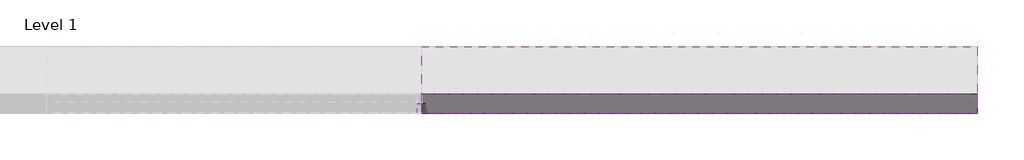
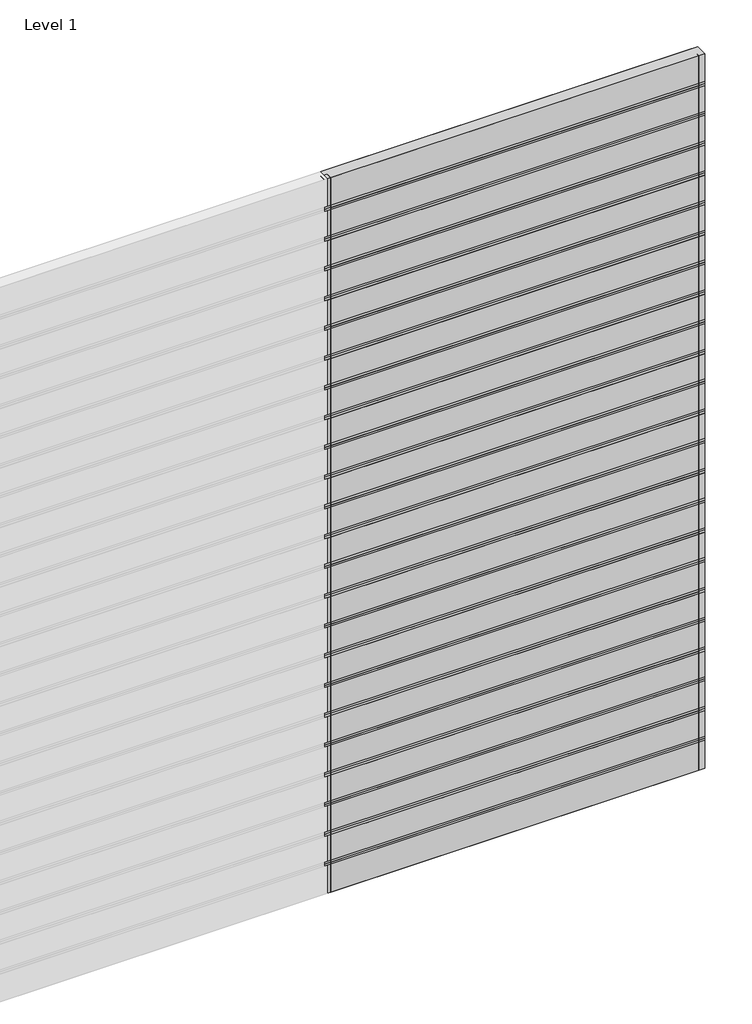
# One storey, part 2 of 2: 59 members, 48 plates.
"""IFC4 building model written with IfcOpenShell, lengths in millimetres."""

import ifcopenshell
import ifcopenshell.guid

model = None  # the IFC model being written
_history = None  # IfcOwnerHistory: only IFC2X3 demands one
_inside = {}  # id of a spatial element -> (the spatial element, [elements in it])
_under = {}  # id of a project, library or spatial element -> (it, [spatial elements below it])
_declared = {}  # id of a project -> (the project, [libraries it declares])
_typed = {}  # id of a type object -> (the type object, [elements of that type])
_made_of = {}  # id of a material, layer set ... -> (it, [elements and type objects made of it])


def new_model(schema):
    """Start an empty IFC model of exactly this schema.

    Asked for "IFC4X3", IfcOpenShell would pick the latest addendum, in which some entities
    have other attributes; the version numbers below select the first issue.
    IFC2X3 requires an IfcOwnerHistory on every rooted entity: one is made here for all.
    """
    global model, _history
    if schema == "IFC4X3":
        model = ifcopenshell.file(schema_version=(4, 3, 0, 0))
    else:
        model = ifcopenshell.file(schema=schema)
    _inside.clear()
    _under.clear()
    _declared.clear()
    _typed.clear()
    _made_of.clear()
    _history = None
    if model.schema == "IFC2X3":
        org = make("IfcOrganization", Name="unknown")
        user = make(
            "IfcPersonAndOrganization",
            ThePerson=make("IfcPerson", FamilyName="unknown"),
            TheOrganization=org,
        )
        app = make(
            "IfcApplication",
            ApplicationDeveloper=org,
            Version="unknown",
            ApplicationFullName="unknown",
            ApplicationIdentifier="unknown",
        )
        _history = make(
            "IfcOwnerHistory",
            OwningUser=user,
            OwningApplication=app,
            ChangeAction="ADDED",
            CreationDate=0,
        )
    return model


def make(cls, **values):
    """One entity of the class cls with the attributes given. An attribute that is None is left unset."""
    return model.create_entity(
        cls, **{name: value for name, value in values.items() if value is not None}
    )


def rooted(cls, **values):
    """An entity with a GlobalId (a new one), such as an element, a storey or a relation."""
    return make(cls, GlobalId=ifcopenshell.guid.new(), OwnerHistory=_history, **values)


def si_unit(unit_type, name, prefix=None):
    """IfcSIUnit, for example si_unit("LENGTHUNIT", "METRE", prefix="MILLI")."""
    return make("IfcSIUnit", UnitType=unit_type, Prefix=prefix, Name=name)


def assignment(units):
    """IfcUnitAssignment: the units of a project."""
    return None if units is None else make("IfcUnitAssignment", Units=units)


def point(xyz):
    """IfcCartesianPoint."""
    return None if xyz is None else make("IfcCartesianPoint", Coordinates=xyz)


def direction(xyz):
    """IfcDirection."""
    return None if xyz is None else make("IfcDirection", DirectionRatios=xyz)


def frame(location, z_axis=None, x_axis=None):
    """IfcAxis2Placement3D, a coordinate frame: its origin and axes. An axis left out is left unset."""
    return make(
        "IfcAxis2Placement3D",
        Location=point(location),
        Axis=direction(z_axis),
        RefDirection=direction(x_axis),
    )


def origin():
    """The frame at (0, 0, 0) with its axes left unset."""
    return frame((0.0, 0.0, 0.0))


def origin_with_axes():
    """The frame at (0, 0, 0) with the z axis (0, 0, 1) and the x axis (1, 0, 0) written out."""
    return frame((0.0, 0.0, 0.0), z_axis=(0.0, 0.0, 1.0), x_axis=(1.0, 0.0, 0.0))


def place(relative_to, where):
    """IfcLocalPlacement: puts the frame where relative to a parent placement (None: the world)."""
    return make(
        "IfcLocalPlacement", PlacementRelTo=relative_to, RelativePlacement=where
    )


def context(
    kind, dimensions, precision=None, world=None, true_north=None, identifier=None
):
    """IfcGeometricRepresentationContext, for example the 3D "Model" context."""
    return make(
        "IfcGeometricRepresentationContext",
        ContextIdentifier=identifier,
        ContextType=kind,
        CoordinateSpaceDimension=dimensions,
        Precision=precision,
        WorldCoordinateSystem=world,
        TrueNorth=true_north,
    )


def project(units=None, contexts=None):
    """IfcProject with its units and contexts."""
    return rooted(
        "IfcProject",
        Name="project",
        RepresentationContexts=contexts,
        UnitsInContext=assignment(units),
    )


def spatial(cls, under=None, at=None, **own):
    """A site, building, storey or space (cls), placed at a placement, below another one or the project."""
    s = rooted(cls, ObjectPlacement=at, **own)
    if under is not None:
        _under.setdefault(under.id(), (under, []))[1].append(s)
    return s


def polyline(points):
    """IfcPolyline through the points."""
    return make("IfcPolyline", Points=[point(p) for p in points])


def outline(outer, holes=None, kind="AREA"):
    """IfcArbitraryClosedProfileDef: a profile drawn as a closed curve; with holes, ...WithVoids."""
    if holes is None:
        return make("IfcArbitraryClosedProfileDef", ProfileType=kind, OuterCurve=outer)
    return make(
        "IfcArbitraryProfileDefWithVoids",
        ProfileType=kind,
        OuterCurve=outer,
        InnerCurves=holes,
    )


def extrude(swept, where, along, depth):
    """IfcExtrudedAreaSolid: the profile swept, set in the frame where, extruded along a direction by depth."""
    return make(
        "IfcExtrudedAreaSolid",
        SweptArea=swept,
        Position=where,
        ExtrudedDirection=direction(along),
        Depth=depth,
    )


def shape(context_of_items, identifier, shape_type, items):
    """IfcShapeRepresentation: the items that make up one representation, for example the "Body"."""
    return make(
        "IfcShapeRepresentation",
        ContextOfItems=context_of_items,
        RepresentationIdentifier=identifier,
        RepresentationType=shape_type,
        Items=items,
    )


def source(mapping_origin, context_of_items, identifier, shape_type, items):
    """IfcRepresentationMap: a shape defined once, which mapped items show again and again."""
    return make(
        "IfcRepresentationMap",
        MappingOrigin=mapping_origin,
        MappedRepresentation=shape(context_of_items, identifier, shape_type, items),
    )


def transform(
    local_origin,
    x_axis=None,
    y_axis=None,
    z_axis=None,
    scale=None,
    scale2=None,
    scale3=None,
    uniform=True,
):
    """IfcCartesianTransformationOperator3D, or its non-uniform kind. x_axis, y_axis, z_axis: its Axis1, 2, 3."""
    if uniform:
        return make(
            "IfcCartesianTransformationOperator3D",
            Axis1=direction(x_axis),
            Axis2=direction(y_axis),
            LocalOrigin=point(local_origin),
            Scale=scale,
            Axis3=direction(z_axis),
        )
    return make(
        "IfcCartesianTransformationOperator3DnonUniform",
        Axis1=direction(x_axis),
        Axis2=direction(y_axis),
        LocalOrigin=point(local_origin),
        Scale=scale,
        Axis3=direction(z_axis),
        Scale2=scale2,
        Scale3=scale3,
    )


def mapped(mapping_source, mapping_target):
    """IfcMappedItem: shows the shape of a source again, moved by a transform."""
    return make(
        "IfcMappedItem", MappingSource=mapping_source, MappingTarget=mapping_target
    )


def made_of(thing, what):
    """Note that an element or type object is made of a material, layer set ...; save() writes the relation."""
    if what is not None:
        _made_of.setdefault(what.id(), (what, []))[1].append(thing)
    return thing


def element(
    cls,
    number,
    at=None,
    inside=None,
    cuts=None,
    type_object=None,
    material=None,
    context=None,
    identifier="Body",
    shape_type=None,
    held_by="IfcProductDefinitionShape",
    body=None,
    shapes=None,
    **own,
):
    """One element of the class cls, such as IfcWall. Its Tag is "e" and its number.

    at: its placement. inside: the storey or other place that contains it. cuts: it is an
    opening in that element (IfcRelVoidsElement). A single representation is given by context,
    identifier, shape_type and body (its items); several are given by shapes. held_by: the class
    of the entity that holds the representations. save() writes the other relations.
    """
    e = rooted(cls, Tag="e%d" % number, ObjectPlacement=at, **own)
    if body is not None:
        shapes = [shape(context, identifier, shape_type, body)]
    if shapes is not None:
        e.Representation = make(held_by, Representations=shapes)
    if inside is not None:
        _inside.setdefault(inside.id(), (inside, []))[1].append(e)
    if cuts is not None:
        rooted(
            "IfcRelVoidsElement", RelatingBuildingElement=cuts, RelatedOpeningElement=e
        )
    if type_object is not None:
        _typed.setdefault(type_object.id(), (type_object, []))[1].append(e)
    return made_of(e, material)


def aggregate(whole, parts):
    """IfcRelAggregates: a whole, such as a stair, and the parts it consists of."""
    return rooted("IfcRelAggregates", RelatingObject=whole, RelatedObjects=parts)


def save(model, path):
    """Write the relations noted so far, then the file.

    IfcRelAggregates (storeys below a building ...), IfcRelContainedInSpatialStructure (elements
    in a storey), IfcRelDefinesByType, IfcRelAssociatesMaterial and IfcRelDeclares: one each for
    every whole, place, type object, material and project.
    """
    for whole, parts in _under.values():
        aggregate(whole, parts)
    for where, things in _inside.values():
        rooted(
            "IfcRelContainedInSpatialStructure",
            RelatedElements=things,
            RelatingStructure=where,
        )
    for kind, things in _typed.values():
        rooted("IfcRelDefinesByType", RelatedObjects=things, RelatingType=kind)
    for what, things in _made_of.values():
        rooted("IfcRelAssociatesMaterial", RelatedObjects=things, RelatingMaterial=what)
    for by, libraries in _declared.values():
        rooted("IfcRelDeclares", RelatingContext=by, RelatedDefinitions=libraries)
    model.write(path)


def rectangular_mullion_3524faa0(model_context):
    return source(origin(), model_context, "Body", "SweptSolid", [
        extrude(outline(polyline([(-18.5, 8.0), (-18.5, 308.0), (18.5, 308.0), (18.5, 8.0), (-18.5, 8.0)])), frame((0.0, 0.0, -3000.0), z_axis=(0.0, 0.0, 1.0), x_axis=(1.0, 0.0, 0.0)), (0.0, 0.0, 1.0), 3000.0),
    ])


def rectangular_mullion_552ac5bc(model_context):
    return source(origin(), model_context, "Body", "SweptSolid", [
        extrude(outline(polyline([(25.0, 1.0), (25.0, -49.0), (-25.0, -49.0), (-25.0, 1.0), (25.0, 1.0)])), frame((0.0, 0.0, -250.0), z_axis=(0.0, 0.0, 1.0), x_axis=(1.0, 0.0, 0.0)), (0.0, 0.0, 1.0), 250.0),
    ])


def rectangular_mullion_b779000f(model_context):
    return source(origin(), model_context, "Body", "SweptSolid", [
        extrude(outline(polyline([(-50.0, 1.0), (0.0, 1.0), (0.0, -49.0), (-50.0, -49.0), (-50.0, 1.0)])), frame((0.0, 0.0, -250.0), z_axis=(0.0, 0.0, 1.0), x_axis=(1.0, 0.0, 0.0)), (0.0, 0.0, 1.0), 250.0),
    ])


def empty_system_panel_empty_0ca92e57(model_context):
    return source(origin(), model_context, "Body", "SweptSolid", [
        extrude(outline(polyline([(1500.0, -50.0), (-1500.0, -50.0), (-1500.0, 50.0), (1500.0, 50.0), (1500.0, -50.0)])), origin_with_axes(), (0.0, 0.0, 1.0), 231.5),
    ])


def empty_system_panel_empty_21c48a04(model_context):
    return source(origin(), model_context, "Body", "SweptSolid", [
        extrude(outline(polyline([(1500.0, -50.0), (-1500.0, -50.0), (-1500.0, 50.0), (1500.0, 50.0), (1500.0, -50.0)])), origin_with_axes(), (0.0, 0.0, 1.0), 213.0),
    ])


def empty_system_panel_empty_839ed214(model_context):
    return source(origin(), model_context, "Body", "SweptSolid", [
        extrude(outline(polyline([(1462.5, -50.0), (-1462.5, -50.0), (-1462.5, 50.0), (1462.5, 50.0), (1462.5, -50.0)])), origin_with_axes(), (0.0, 0.0, 1.0), 250.0),
    ])


model = new_model("IFC4")

# Units and contexts
model_context = context("Model", 3, world=origin())
ifc_project = project(units=[si_unit("LENGTHUNIT", "METRE", prefix="MILLI")], contexts=[model_context])

# Site, building, storey
site = spatial("IfcSite", under=ifc_project)
building = spatial("IfcBuilding", under=site)
storey = spatial("IfcBuildingStorey", under=building, Name="Level 1", Elevation=0.0)

# Members
placement = place(None, origin())
rectangular_mullion_shape = rectangular_mullion_3524faa0(model_context)
element("IfcMember", 1, ObjectType="Rectangular Mullion : RSen_21_CWM_blade - cubic 300 - 0°_gen_duco projects", at=placement, inside=storey, context=model_context, shape_type="MappedRepresentation", body=[
    mapped(rectangular_mullion_shape, transform((3000.0, 3000.0, 3250.0), x_axis=(0.0, 0.0, 1.0), y_axis=(0.0, 1.0, 0.0), z_axis=(-1.0, 0.0, 0.0))),
])
element("IfcMember", 2, ObjectType="Rectangular Mullion : RSen_21_CWM_blade - cubic 300 - 0°_gen_duco projects", at=placement, inside=storey, context=model_context, shape_type="MappedRepresentation", body=[
    mapped(rectangular_mullion_shape, transform((3000.0, 3000.0, 3500.0), x_axis=(0.0, 0.0, 1.0), y_axis=(0.0, 1.0, 0.0), z_axis=(-1.0, 0.0, 0.0))),
])
element("IfcMember", 3, ObjectType="Rectangular Mullion : RSen_21_CWM_blade - cubic 300 - 0°_gen_duco projects", at=placement, inside=storey, context=model_context, shape_type="MappedRepresentation", body=[
    mapped(rectangular_mullion_shape, transform((3000.0, 3000.0, 3750.0), x_axis=(0.0, 0.0, 1.0), y_axis=(0.0, 1.0, 0.0), z_axis=(-1.0, 0.0, 0.0))),
])
element("IfcMember", 4, ObjectType="Rectangular Mullion : RSen_21_CWM_blade - cubic 300 - 0°_gen_duco projects", at=placement, inside=storey, context=model_context, shape_type="MappedRepresentation", body=[
    mapped(rectangular_mullion_shape, transform((3000.0, 3000.0, 4000.0), x_axis=(0.0, 0.0, 1.0), y_axis=(0.0, 1.0, 0.0), z_axis=(-1.0, 0.0, 0.0))),
])
element("IfcMember", 5, ObjectType="Rectangular Mullion : RSen_21_CWM_blade - cubic 300 - 0°_gen_duco projects", at=placement, inside=storey, context=model_context, shape_type="MappedRepresentation", body=[
    mapped(rectangular_mullion_shape, transform((3000.0, 3000.0, 4250.0), x_axis=(0.0, 0.0, 1.0), y_axis=(0.0, 1.0, 0.0), z_axis=(-1.0, 0.0, 0.0))),
])
element("IfcMember", 6, ObjectType="Rectangular Mullion : RSen_21_CWM_blade - cubic 300 - 0°_gen_duco projects", at=placement, inside=storey, context=model_context, shape_type="MappedRepresentation", body=[
    mapped(rectangular_mullion_shape, transform((3000.0, 3000.0, 4500.0), x_axis=(0.0, 0.0, 1.0), y_axis=(0.0, 1.0, 0.0), z_axis=(-1.0, 0.0, 0.0))),
])
element("IfcMember", 7, ObjectType="Rectangular Mullion : RSen_21_CWM_blade - cubic 300 - 0°_gen_duco projects", at=placement, inside=storey, context=model_context, shape_type="MappedRepresentation", body=[
    mapped(rectangular_mullion_shape, transform((3000.0, 3000.0, 4750.0), x_axis=(0.0, 0.0, 1.0), y_axis=(0.0, 1.0, 0.0), z_axis=(-1.0, 0.0, 0.0))),
])
element("IfcMember", 8, ObjectType="Rectangular Mullion : RSen_21_CWM_blade - cubic 300 - 0°_gen_duco projects", at=placement, inside=storey, context=model_context, shape_type="MappedRepresentation", body=[
    mapped(rectangular_mullion_shape, transform((3000.0, 3000.0, 5000.0), x_axis=(0.0, 0.0, 1.0), y_axis=(0.0, 1.0, 0.0), z_axis=(-1.0, 0.0, 0.0))),
])
element("IfcMember", 9, ObjectType="Rectangular Mullion : RSen_21_CWM_blade - cubic 300 - 0°_gen_duco projects", at=placement, inside=storey, context=model_context, shape_type="MappedRepresentation", body=[
    mapped(rectangular_mullion_shape, transform((3000.0, 3000.0, 5250.0), x_axis=(0.0, 0.0, 1.0), y_axis=(0.0, 1.0, 0.0), z_axis=(-1.0, 0.0, 0.0))),
])
element("IfcMember", 10, ObjectType="Rectangular Mullion : RSen_21_CWM_blade - cubic 300 - 0°_gen_duco projects", at=placement, inside=storey, context=model_context, shape_type="MappedRepresentation", body=[
    mapped(rectangular_mullion_shape, transform((3000.0, 3000.0, 5500.0), x_axis=(0.0, 0.0, 1.0), y_axis=(0.0, 1.0, 0.0), z_axis=(-1.0, 0.0, 0.0))),
])
element("IfcMember", 11, ObjectType="Rectangular Mullion : RSen_21_CWM_blade - cubic 300 - 0°_gen_duco projects", at=placement, inside=storey, context=model_context, shape_type="MappedRepresentation", body=[
    mapped(rectangular_mullion_shape, transform((3000.0, 3000.0, 5750.0), x_axis=(0.0, 0.0, 1.0), y_axis=(0.0, 1.0, 0.0), z_axis=(-1.0, 0.0, 0.0))),
])
rectangular_mullion_2_shape = rectangular_mullion_552ac5bc(model_context)
element("IfcMember", 12, ObjectType="Rectangular Mullion : RSen_21_CWM_support profile 50x50_gen_duco projects", at=placement, inside=storey, context=model_context, shape_type="MappedRepresentation", body=[
    mapped(rectangular_mullion_2_shape, transform((3000.0, 3000.0, 0.0), x_axis=(-1.0, 0.0, 0.0), y_axis=(0.0, 1.0, 0.0), z_axis=(0.0, 0.0, -1.0))),
])
element("IfcMember", 13, ObjectType="Rectangular Mullion : RSen_21_CWM_support profile 50x50_gen_duco projects", at=placement, inside=storey, context=model_context, shape_type="MappedRepresentation", body=[
    mapped(rectangular_mullion_2_shape, transform((3000.0, 3000.0, 250.0), x_axis=(-1.0, 0.0, 0.0), y_axis=(0.0, 1.0, 0.0), z_axis=(0.0, 0.0, -1.0))),
])
element("IfcMember", 14, ObjectType="Rectangular Mullion : RSen_21_CWM_support profile 50x50_gen_duco projects", at=placement, inside=storey, context=model_context, shape_type="MappedRepresentation", body=[
    mapped(rectangular_mullion_2_shape, transform((3000.0, 3000.0, 500.0), x_axis=(-1.0, 0.0, 0.0), y_axis=(0.0, 1.0, 0.0), z_axis=(0.0, 0.0, -1.0))),
])
element("IfcMember", 15, ObjectType="Rectangular Mullion : RSen_21_CWM_support profile 50x50_gen_duco projects", at=placement, inside=storey, context=model_context, shape_type="MappedRepresentation", body=[
    mapped(rectangular_mullion_2_shape, transform((3000.0, 3000.0, 750.0), x_axis=(-1.0, 0.0, 0.0), y_axis=(0.0, 1.0, 0.0), z_axis=(0.0, 0.0, -1.0))),
])
element("IfcMember", 16, ObjectType="Rectangular Mullion : RSen_21_CWM_support profile 50x50_gen_duco projects", at=placement, inside=storey, context=model_context, shape_type="MappedRepresentation", body=[
    mapped(rectangular_mullion_2_shape, transform((3000.0, 3000.0, 1000.0), x_axis=(-1.0, 0.0, 0.0), y_axis=(0.0, 1.0, 0.0), z_axis=(0.0, 0.0, -1.0))),
])
element("IfcMember", 17, ObjectType="Rectangular Mullion : RSen_21_CWM_support profile 50x50_gen_duco projects", at=placement, inside=storey, context=model_context, shape_type="MappedRepresentation", body=[
    mapped(rectangular_mullion_2_shape, transform((3000.0, 3000.0, 1250.0), x_axis=(-1.0, 0.0, 0.0), y_axis=(0.0, 1.0, 0.0), z_axis=(0.0, 0.0, -1.0))),
])
element("IfcMember", 18, ObjectType="Rectangular Mullion : RSen_21_CWM_support profile 50x50_gen_duco projects", at=placement, inside=storey, context=model_context, shape_type="MappedRepresentation", body=[
    mapped(rectangular_mullion_2_shape, transform((3000.0, 3000.0, 1500.0), x_axis=(-1.0, 0.0, 0.0), y_axis=(0.0, 1.0, 0.0), z_axis=(0.0, 0.0, -1.0))),
])
element("IfcMember", 19, ObjectType="Rectangular Mullion : RSen_21_CWM_support profile 50x50_gen_duco projects", at=placement, inside=storey, context=model_context, shape_type="MappedRepresentation", body=[
    mapped(rectangular_mullion_2_shape, transform((3000.0, 3000.0, 1750.0), x_axis=(-1.0, 0.0, 0.0), y_axis=(0.0, 1.0, 0.0), z_axis=(0.0, 0.0, -1.0))),
])
element("IfcMember", 20, ObjectType="Rectangular Mullion : RSen_21_CWM_support profile 50x50_gen_duco projects", at=placement, inside=storey, context=model_context, shape_type="MappedRepresentation", body=[
    mapped(rectangular_mullion_2_shape, transform((3000.0, 3000.0, 2000.0), x_axis=(-1.0, 0.0, 0.0), y_axis=(0.0, 1.0, 0.0), z_axis=(0.0, 0.0, -1.0))),
])
element("IfcMember", 21, ObjectType="Rectangular Mullion : RSen_21_CWM_support profile 50x50_gen_duco projects", at=placement, inside=storey, context=model_context, shape_type="MappedRepresentation", body=[
    mapped(rectangular_mullion_2_shape, transform((3000.0, 3000.0, 2250.0), x_axis=(-1.0, 0.0, 0.0), y_axis=(0.0, 1.0, 0.0), z_axis=(0.0, 0.0, -1.0))),
])
element("IfcMember", 22, ObjectType="Rectangular Mullion : RSen_21_CWM_support profile 50x50_gen_duco projects", at=placement, inside=storey, context=model_context, shape_type="MappedRepresentation", body=[
    mapped(rectangular_mullion_2_shape, transform((3000.0, 3000.0, 2500.0), x_axis=(-1.0, 0.0, 0.0), y_axis=(0.0, 1.0, 0.0), z_axis=(0.0, 0.0, -1.0))),
])
element("IfcMember", 23, ObjectType="Rectangular Mullion : RSen_21_CWM_support profile 50x50_gen_duco projects", at=placement, inside=storey, context=model_context, shape_type="MappedRepresentation", body=[
    mapped(rectangular_mullion_2_shape, transform((3000.0, 3000.0, 2750.0), x_axis=(-1.0, 0.0, 0.0), y_axis=(0.0, 1.0, 0.0), z_axis=(0.0, 0.0, -1.0))),
])
element("IfcMember", 24, ObjectType="Rectangular Mullion : RSen_21_CWM_support profile 50x50_gen_duco projects", at=placement, inside=storey, context=model_context, shape_type="MappedRepresentation", body=[
    mapped(rectangular_mullion_2_shape, transform((3000.0, 3000.0, 3000.0), x_axis=(-1.0, 0.0, 0.0), y_axis=(0.0, 1.0, 0.0), z_axis=(0.0, 0.0, -1.0))),
])
element("IfcMember", 25, ObjectType="Rectangular Mullion : RSen_21_CWM_support profile 50x50_gen_duco projects", at=placement, inside=storey, context=model_context, shape_type="MappedRepresentation", body=[
    mapped(rectangular_mullion_2_shape, transform((3000.0, 3000.0, 3250.0), x_axis=(-1.0, 0.0, 0.0), y_axis=(0.0, 1.0, 0.0), z_axis=(0.0, 0.0, -1.0))),
])
element("IfcMember", 26, ObjectType="Rectangular Mullion : RSen_21_CWM_support profile 50x50_gen_duco projects", at=placement, inside=storey, context=model_context, shape_type="MappedRepresentation", body=[
    mapped(rectangular_mullion_2_shape, transform((3000.0, 3000.0, 3500.0), x_axis=(-1.0, 0.0, 0.0), y_axis=(0.0, 1.0, 0.0), z_axis=(0.0, 0.0, -1.0))),
])
element("IfcMember", 27, ObjectType="Rectangular Mullion : RSen_21_CWM_support profile 50x50_gen_duco projects", at=placement, inside=storey, context=model_context, shape_type="MappedRepresentation", body=[
    mapped(rectangular_mullion_2_shape, transform((3000.0, 3000.0, 3750.0), x_axis=(-1.0, 0.0, 0.0), y_axis=(0.0, 1.0, 0.0), z_axis=(0.0, 0.0, -1.0))),
])
element("IfcMember", 28, ObjectType="Rectangular Mullion : RSen_21_CWM_support profile 50x50_gen_duco projects", at=placement, inside=storey, context=model_context, shape_type="MappedRepresentation", body=[
    mapped(rectangular_mullion_2_shape, transform((3000.0, 3000.0, 4000.0), x_axis=(-1.0, 0.0, 0.0), y_axis=(0.0, 1.0, 0.0), z_axis=(0.0, 0.0, -1.0))),
])
element("IfcMember", 29, ObjectType="Rectangular Mullion : RSen_21_CWM_support profile 50x50_gen_duco projects", at=placement, inside=storey, context=model_context, shape_type="MappedRepresentation", body=[
    mapped(rectangular_mullion_2_shape, transform((3000.0, 3000.0, 4250.0), x_axis=(-1.0, 0.0, 0.0), y_axis=(0.0, 1.0, 0.0), z_axis=(0.0, 0.0, -1.0))),
])
element("IfcMember", 30, ObjectType="Rectangular Mullion : RSen_21_CWM_support profile 50x50_gen_duco projects", at=placement, inside=storey, context=model_context, shape_type="MappedRepresentation", body=[
    mapped(rectangular_mullion_2_shape, transform((3000.0, 3000.0, 4500.0), x_axis=(-1.0, 0.0, 0.0), y_axis=(0.0, 1.0, 0.0), z_axis=(0.0, 0.0, -1.0))),
])
element("IfcMember", 31, ObjectType="Rectangular Mullion : RSen_21_CWM_support profile 50x50_gen_duco projects", at=placement, inside=storey, context=model_context, shape_type="MappedRepresentation", body=[
    mapped(rectangular_mullion_2_shape, transform((3000.0, 3000.0, 4750.0), x_axis=(-1.0, 0.0, 0.0), y_axis=(0.0, 1.0, 0.0), z_axis=(0.0, 0.0, -1.0))),
])
element("IfcMember", 32, ObjectType="Rectangular Mullion : RSen_21_CWM_support profile 50x50_gen_duco projects", at=placement, inside=storey, context=model_context, shape_type="MappedRepresentation", body=[
    mapped(rectangular_mullion_2_shape, transform((3000.0, 3000.0, 5000.0), x_axis=(-1.0, 0.0, 0.0), y_axis=(0.0, 1.0, 0.0), z_axis=(0.0, 0.0, -1.0))),
])
element("IfcMember", 33, ObjectType="Rectangular Mullion : RSen_21_CWM_support profile 50x50_gen_duco projects", at=placement, inside=storey, context=model_context, shape_type="MappedRepresentation", body=[
    mapped(rectangular_mullion_2_shape, transform((3000.0, 3000.0, 5250.0), x_axis=(-1.0, 0.0, 0.0), y_axis=(0.0, 1.0, 0.0), z_axis=(0.0, 0.0, -1.0))),
])
element("IfcMember", 34, ObjectType="Rectangular Mullion : RSen_21_CWM_support profile 50x50_gen_duco projects", at=placement, inside=storey, context=model_context, shape_type="MappedRepresentation", body=[
    mapped(rectangular_mullion_2_shape, transform((3000.0, 3000.0, 5500.0), x_axis=(-1.0, 0.0, 0.0), y_axis=(0.0, 1.0, 0.0), z_axis=(0.0, 0.0, -1.0))),
])
element("IfcMember", 35, ObjectType="Rectangular Mullion : RSen_21_CWM_support profile 50x50_gen_duco projects", at=placement, inside=storey, context=model_context, shape_type="MappedRepresentation", body=[
    mapped(rectangular_mullion_2_shape, transform((3000.0, 3000.0, 5750.0), x_axis=(-1.0, 0.0, 0.0), y_axis=(0.0, 1.0, 0.0), z_axis=(0.0, 0.0, -1.0))),
])
rectangular_mullion_3_shape = rectangular_mullion_b779000f(model_context)
element("IfcMember", 36, ObjectType="Rectangular Mullion : RSen_21_CWM_support profile 50x50 - right_gen_duco projects", at=placement, inside=storey, context=model_context, shape_type="MappedRepresentation", body=[
    mapped(rectangular_mullion_3_shape, transform((6000.0, 3000.0, 6000.0), x_axis=(1.0, 0.0, 0.0), y_axis=(0.0, 1.0, 0.0), z_axis=(0.0, 0.0, 1.0))),
])
element("IfcMember", 37, ObjectType="Rectangular Mullion : RSen_21_CWM_support profile 50x50 - right_gen_duco projects", at=placement, inside=storey, context=model_context, shape_type="MappedRepresentation", body=[
    mapped(rectangular_mullion_3_shape, transform((6000.0, 3000.0, 250.0), x_axis=(1.0, 0.0, 0.0), y_axis=(0.0, 1.0, 0.0), z_axis=(0.0, 0.0, 1.0))),
])
element("IfcMember", 38, ObjectType="Rectangular Mullion : RSen_21_CWM_support profile 50x50 - right_gen_duco projects", at=placement, inside=storey, context=model_context, shape_type="MappedRepresentation", body=[
    mapped(rectangular_mullion_3_shape, transform((6000.0, 3000.0, 500.0), x_axis=(1.0, 0.0, 0.0), y_axis=(0.0, 1.0, 0.0), z_axis=(0.0, 0.0, 1.0))),
])
element("IfcMember", 39, ObjectType="Rectangular Mullion : RSen_21_CWM_support profile 50x50 - right_gen_duco projects", at=placement, inside=storey, context=model_context, shape_type="MappedRepresentation", body=[
    mapped(rectangular_mullion_3_shape, transform((6000.0, 3000.0, 750.0), x_axis=(1.0, 0.0, 0.0), y_axis=(0.0, 1.0, 0.0), z_axis=(0.0, 0.0, 1.0))),
])
element("IfcMember", 40, ObjectType="Rectangular Mullion : RSen_21_CWM_support profile 50x50 - right_gen_duco projects", at=placement, inside=storey, context=model_context, shape_type="MappedRepresentation", body=[
    mapped(rectangular_mullion_3_shape, transform((6000.0, 3000.0, 1000.0), x_axis=(1.0, 0.0, 0.0), y_axis=(0.0, 1.0, 0.0), z_axis=(0.0, 0.0, 1.0))),
])
element("IfcMember", 41, ObjectType="Rectangular Mullion : RSen_21_CWM_support profile 50x50 - right_gen_duco projects", at=placement, inside=storey, context=model_context, shape_type="MappedRepresentation", body=[
    mapped(rectangular_mullion_3_shape, transform((6000.0, 3000.0, 1250.0), x_axis=(1.0, 0.0, 0.0), y_axis=(0.0, 1.0, 0.0), z_axis=(0.0, 0.0, 1.0))),
])
element("IfcMember", 42, ObjectType="Rectangular Mullion : RSen_21_CWM_support profile 50x50 - right_gen_duco projects", at=placement, inside=storey, context=model_context, shape_type="MappedRepresentation", body=[
    mapped(rectangular_mullion_3_shape, transform((6000.0, 3000.0, 1500.0), x_axis=(1.0, 0.0, 0.0), y_axis=(0.0, 1.0, 0.0), z_axis=(0.0, 0.0, 1.0))),
])
element("IfcMember", 43, ObjectType="Rectangular Mullion : RSen_21_CWM_support profile 50x50 - right_gen_duco projects", at=placement, inside=storey, context=model_context, shape_type="MappedRepresentation", body=[
    mapped(rectangular_mullion_3_shape, transform((6000.0, 3000.0, 1750.0), x_axis=(1.0, 0.0, 0.0), y_axis=(0.0, 1.0, 0.0), z_axis=(0.0, 0.0, 1.0))),
])
element("IfcMember", 44, ObjectType="Rectangular Mullion : RSen_21_CWM_support profile 50x50 - right_gen_duco projects", at=placement, inside=storey, context=model_context, shape_type="MappedRepresentation", body=[
    mapped(rectangular_mullion_3_shape, transform((6000.0, 3000.0, 2000.0), x_axis=(1.0, 0.0, 0.0), y_axis=(0.0, 1.0, 0.0), z_axis=(0.0, 0.0, 1.0))),
])
element("IfcMember", 45, ObjectType="Rectangular Mullion : RSen_21_CWM_support profile 50x50 - right_gen_duco projects", at=placement, inside=storey, context=model_context, shape_type="MappedRepresentation", body=[
    mapped(rectangular_mullion_3_shape, transform((6000.0, 3000.0, 2250.0), x_axis=(1.0, 0.0, 0.0), y_axis=(0.0, 1.0, 0.0), z_axis=(0.0, 0.0, 1.0))),
])
element("IfcMember", 46, ObjectType="Rectangular Mullion : RSen_21_CWM_support profile 50x50 - right_gen_duco projects", at=placement, inside=storey, context=model_context, shape_type="MappedRepresentation", body=[
    mapped(rectangular_mullion_3_shape, transform((6000.0, 3000.0, 2500.0), x_axis=(1.0, 0.0, 0.0), y_axis=(0.0, 1.0, 0.0), z_axis=(0.0, 0.0, 1.0))),
])
element("IfcMember", 47, ObjectType="Rectangular Mullion : RSen_21_CWM_support profile 50x50 - right_gen_duco projects", at=placement, inside=storey, context=model_context, shape_type="MappedRepresentation", body=[
    mapped(rectangular_mullion_3_shape, transform((6000.0, 3000.0, 2750.0), x_axis=(1.0, 0.0, 0.0), y_axis=(0.0, 1.0, 0.0), z_axis=(0.0, 0.0, 1.0))),
])
element("IfcMember", 48, ObjectType="Rectangular Mullion : RSen_21_CWM_support profile 50x50 - right_gen_duco projects", at=placement, inside=storey, context=model_context, shape_type="MappedRepresentation", body=[
    mapped(rectangular_mullion_3_shape, transform((6000.0, 3000.0, 3000.0), x_axis=(1.0, 0.0, 0.0), y_axis=(0.0, 1.0, 0.0), z_axis=(0.0, 0.0, 1.0))),
])
element("IfcMember", 49, ObjectType="Rectangular Mullion : RSen_21_CWM_support profile 50x50 - right_gen_duco projects", at=placement, inside=storey, context=model_context, shape_type="MappedRepresentation", body=[
    mapped(rectangular_mullion_3_shape, transform((6000.0, 3000.0, 3250.0), x_axis=(1.0, 0.0, 0.0), y_axis=(0.0, 1.0, 0.0), z_axis=(0.0, 0.0, 1.0))),
])
element("IfcMember", 50, ObjectType="Rectangular Mullion : RSen_21_CWM_support profile 50x50 - right_gen_duco projects", at=placement, inside=storey, context=model_context, shape_type="MappedRepresentation", body=[
    mapped(rectangular_mullion_3_shape, transform((6000.0, 3000.0, 3500.0), x_axis=(1.0, 0.0, 0.0), y_axis=(0.0, 1.0, 0.0), z_axis=(0.0, 0.0, 1.0))),
])
element("IfcMember", 51, ObjectType="Rectangular Mullion : RSen_21_CWM_support profile 50x50 - right_gen_duco projects", at=placement, inside=storey, context=model_context, shape_type="MappedRepresentation", body=[
    mapped(rectangular_mullion_3_shape, transform((6000.0, 3000.0, 3750.0), x_axis=(1.0, 0.0, 0.0), y_axis=(0.0, 1.0, 0.0), z_axis=(0.0, 0.0, 1.0))),
])
element("IfcMember", 52, ObjectType="Rectangular Mullion : RSen_21_CWM_support profile 50x50 - right_gen_duco projects", at=placement, inside=storey, context=model_context, shape_type="MappedRepresentation", body=[
    mapped(rectangular_mullion_3_shape, transform((6000.0, 3000.0, 4000.0), x_axis=(1.0, 0.0, 0.0), y_axis=(0.0, 1.0, 0.0), z_axis=(0.0, 0.0, 1.0))),
])
element("IfcMember", 53, ObjectType="Rectangular Mullion : RSen_21_CWM_support profile 50x50 - right_gen_duco projects", at=placement, inside=storey, context=model_context, shape_type="MappedRepresentation", body=[
    mapped(rectangular_mullion_3_shape, transform((6000.0, 3000.0, 4250.0), x_axis=(1.0, 0.0, 0.0), y_axis=(0.0, 1.0, 0.0), z_axis=(0.0, 0.0, 1.0))),
])
element("IfcMember", 54, ObjectType="Rectangular Mullion : RSen_21_CWM_support profile 50x50 - right_gen_duco projects", at=placement, inside=storey, context=model_context, shape_type="MappedRepresentation", body=[
    mapped(rectangular_mullion_3_shape, transform((6000.0, 3000.0, 4500.0), x_axis=(1.0, 0.0, 0.0), y_axis=(0.0, 1.0, 0.0), z_axis=(0.0, 0.0, 1.0))),
])
element("IfcMember", 55, ObjectType="Rectangular Mullion : RSen_21_CWM_support profile 50x50 - right_gen_duco projects", at=placement, inside=storey, context=model_context, shape_type="MappedRepresentation", body=[
    mapped(rectangular_mullion_3_shape, transform((6000.0, 3000.0, 4750.0), x_axis=(1.0, 0.0, 0.0), y_axis=(0.0, 1.0, 0.0), z_axis=(0.0, 0.0, 1.0))),
])
element("IfcMember", 56, ObjectType="Rectangular Mullion : RSen_21_CWM_support profile 50x50 - right_gen_duco projects", at=placement, inside=storey, context=model_context, shape_type="MappedRepresentation", body=[
    mapped(rectangular_mullion_3_shape, transform((6000.0, 3000.0, 5000.0), x_axis=(1.0, 0.0, 0.0), y_axis=(0.0, 1.0, 0.0), z_axis=(0.0, 0.0, 1.0))),
])
element("IfcMember", 57, ObjectType="Rectangular Mullion : RSen_21_CWM_support profile 50x50 - right_gen_duco projects", at=placement, inside=storey, context=model_context, shape_type="MappedRepresentation", body=[
    mapped(rectangular_mullion_3_shape, transform((6000.0, 3000.0, 5250.0), x_axis=(1.0, 0.0, 0.0), y_axis=(0.0, 1.0, 0.0), z_axis=(0.0, 0.0, 1.0))),
])
element("IfcMember", 58, ObjectType="Rectangular Mullion : RSen_21_CWM_support profile 50x50 - right_gen_duco projects", at=placement, inside=storey, context=model_context, shape_type="MappedRepresentation", body=[
    mapped(rectangular_mullion_3_shape, transform((6000.0, 3000.0, 5500.0), x_axis=(1.0, 0.0, 0.0), y_axis=(0.0, 1.0, 0.0), z_axis=(0.0, 0.0, 1.0))),
])
element("IfcMember", 59, ObjectType="Rectangular Mullion : RSen_21_CWM_support profile 50x50 - right_gen_duco projects", at=placement, inside=storey, context=model_context, shape_type="MappedRepresentation", body=[
    mapped(rectangular_mullion_3_shape, transform((6000.0, 3000.0, 5750.0), x_axis=(1.0, 0.0, 0.0), y_axis=(0.0, 1.0, 0.0), z_axis=(0.0, 0.0, 1.0))),
])

# Plates
empty_system_panel_empty_shape = empty_system_panel_empty_0ca92e57(model_context)
element("IfcPlate", 60, ObjectType="Empty System Panel : Empty", at=placement, inside=storey, context=model_context, shape_type="MappedRepresentation", body=[
    mapped(empty_system_panel_empty_shape, transform((4500.0, 3000.0, 0.0), x_axis=(-1.0, 0.0, 0.0), y_axis=(0.0, -1.0, 0.0), z_axis=(0.0, 0.0, 1.0))),
])
element("IfcPlate", 61, ObjectType="Empty System Panel : Empty", at=placement, inside=storey, context=model_context, shape_type="MappedRepresentation", body=[
    mapped(empty_system_panel_empty_shape, transform((4500.0, 3000.0, 5768.5), x_axis=(-1.0, 0.0, 0.0), y_axis=(0.0, -1.0, 0.0), z_axis=(0.0, 0.0, 1.0))),
])
empty_system_panel_empty_2_shape = empty_system_panel_empty_21c48a04(model_context)
element("IfcPlate", 62, ObjectType="Empty System Panel : Empty", at=placement, inside=storey, context=model_context, shape_type="MappedRepresentation", body=[
    mapped(empty_system_panel_empty_2_shape, transform((4500.0, 3000.0, 268.5), x_axis=(-1.0, 0.0, 0.0), y_axis=(0.0, -1.0, 0.0), z_axis=(0.0, 0.0, 1.0))),
])
element("IfcPlate", 63, ObjectType="Empty System Panel : Empty", at=placement, inside=storey, context=model_context, shape_type="MappedRepresentation", body=[
    mapped(empty_system_panel_empty_2_shape, transform((4500.0, 3000.0, 518.5), x_axis=(-1.0, 0.0, 0.0), y_axis=(0.0, -1.0, 0.0), z_axis=(0.0, 0.0, 1.0))),
])
element("IfcPlate", 64, ObjectType="Empty System Panel : Empty", at=placement, inside=storey, context=model_context, shape_type="MappedRepresentation", body=[
    mapped(empty_system_panel_empty_2_shape, transform((4500.0, 3000.0, 768.5), x_axis=(-1.0, 0.0, 0.0), y_axis=(0.0, -1.0, 0.0), z_axis=(0.0, 0.0, 1.0))),
])
element("IfcPlate", 65, ObjectType="Empty System Panel : Empty", at=placement, inside=storey, context=model_context, shape_type="MappedRepresentation", body=[
    mapped(empty_system_panel_empty_2_shape, transform((4500.0, 3000.0, 1018.5), x_axis=(-1.0, 0.0, 0.0), y_axis=(0.0, -1.0, 0.0), z_axis=(0.0, 0.0, 1.0))),
])
element("IfcPlate", 66, ObjectType="Empty System Panel : Empty", at=placement, inside=storey, context=model_context, shape_type="MappedRepresentation", body=[
    mapped(empty_system_panel_empty_2_shape, transform((4500.0, 3000.0, 1268.5), x_axis=(-1.0, 0.0, 0.0), y_axis=(0.0, -1.0, 0.0), z_axis=(0.0, 0.0, 1.0))),
])
element("IfcPlate", 67, ObjectType="Empty System Panel : Empty", at=placement, inside=storey, context=model_context, shape_type="MappedRepresentation", body=[
    mapped(empty_system_panel_empty_2_shape, transform((4500.0, 3000.0, 1518.5), x_axis=(-1.0, 0.0, 0.0), y_axis=(0.0, -1.0, 0.0), z_axis=(0.0, 0.0, 1.0))),
])
element("IfcPlate", 68, ObjectType="Empty System Panel : Empty", at=placement, inside=storey, context=model_context, shape_type="MappedRepresentation", body=[
    mapped(empty_system_panel_empty_2_shape, transform((4500.0, 3000.0, 1768.5), x_axis=(-1.0, 0.0, 0.0), y_axis=(0.0, -1.0, 0.0), z_axis=(0.0, 0.0, 1.0))),
])
element("IfcPlate", 69, ObjectType="Empty System Panel : Empty", at=placement, inside=storey, context=model_context, shape_type="MappedRepresentation", body=[
    mapped(empty_system_panel_empty_2_shape, transform((4500.0, 3000.0, 2018.5), x_axis=(-1.0, 0.0, 0.0), y_axis=(0.0, -1.0, 0.0), z_axis=(0.0, 0.0, 1.0))),
])
element("IfcPlate", 70, ObjectType="Empty System Panel : Empty", at=placement, inside=storey, context=model_context, shape_type="MappedRepresentation", body=[
    mapped(empty_system_panel_empty_2_shape, transform((4500.0, 3000.0, 2268.5), x_axis=(-1.0, 0.0, 0.0), y_axis=(0.0, -1.0, 0.0), z_axis=(0.0, 0.0, 1.0))),
])
element("IfcPlate", 71, ObjectType="Empty System Panel : Empty", at=placement, inside=storey, context=model_context, shape_type="MappedRepresentation", body=[
    mapped(empty_system_panel_empty_2_shape, transform((4500.0, 3000.0, 2518.5), x_axis=(-1.0, 0.0, 0.0), y_axis=(0.0, -1.0, 0.0), z_axis=(0.0, 0.0, 1.0))),
])
element("IfcPlate", 72, ObjectType="Empty System Panel : Empty", at=placement, inside=storey, context=model_context, shape_type="MappedRepresentation", body=[
    mapped(empty_system_panel_empty_2_shape, transform((4500.0, 3000.0, 2768.5), x_axis=(-1.0, 0.0, 0.0), y_axis=(0.0, -1.0, 0.0), z_axis=(0.0, 0.0, 1.0))),
])
element("IfcPlate", 73, ObjectType="Empty System Panel : Empty", at=placement, inside=storey, context=model_context, shape_type="MappedRepresentation", body=[
    mapped(empty_system_panel_empty_2_shape, transform((4500.0, 3000.0, 3018.5), x_axis=(-1.0, 0.0, 0.0), y_axis=(0.0, -1.0, 0.0), z_axis=(0.0, 0.0, 1.0))),
])
element("IfcPlate", 74, ObjectType="Empty System Panel : Empty", at=placement, inside=storey, context=model_context, shape_type="MappedRepresentation", body=[
    mapped(empty_system_panel_empty_2_shape, transform((4500.0, 3000.0, 3268.5), x_axis=(-1.0, 0.0, 0.0), y_axis=(0.0, -1.0, 0.0), z_axis=(0.0, 0.0, 1.0))),
])
element("IfcPlate", 75, ObjectType="Empty System Panel : Empty", at=placement, inside=storey, context=model_context, shape_type="MappedRepresentation", body=[
    mapped(empty_system_panel_empty_2_shape, transform((4500.0, 3000.0, 3518.5), x_axis=(-1.0, 0.0, 0.0), y_axis=(0.0, -1.0, 0.0), z_axis=(0.0, 0.0, 1.0))),
])
element("IfcPlate", 76, ObjectType="Empty System Panel : Empty", at=placement, inside=storey, context=model_context, shape_type="MappedRepresentation", body=[
    mapped(empty_system_panel_empty_2_shape, transform((4500.0, 3000.0, 3768.5), x_axis=(-1.0, 0.0, 0.0), y_axis=(0.0, -1.0, 0.0), z_axis=(0.0, 0.0, 1.0))),
])
element("IfcPlate", 77, ObjectType="Empty System Panel : Empty", at=placement, inside=storey, context=model_context, shape_type="MappedRepresentation", body=[
    mapped(empty_system_panel_empty_2_shape, transform((4500.0, 3000.0, 4018.5), x_axis=(-1.0, 0.0, 0.0), y_axis=(0.0, -1.0, 0.0), z_axis=(0.0, 0.0, 1.0))),
])
element("IfcPlate", 78, ObjectType="Empty System Panel : Empty", at=placement, inside=storey, context=model_context, shape_type="MappedRepresentation", body=[
    mapped(empty_system_panel_empty_2_shape, transform((4500.0, 3000.0, 4268.5), x_axis=(-1.0, 0.0, 0.0), y_axis=(0.0, -1.0, 0.0), z_axis=(0.0, 0.0, 1.0))),
])
element("IfcPlate", 79, ObjectType="Empty System Panel : Empty", at=placement, inside=storey, context=model_context, shape_type="MappedRepresentation", body=[
    mapped(empty_system_panel_empty_2_shape, transform((4500.0, 3000.0, 4518.5), x_axis=(-1.0, 0.0, 0.0), y_axis=(0.0, -1.0, 0.0), z_axis=(0.0, 0.0, 1.0))),
])
element("IfcPlate", 80, ObjectType="Empty System Panel : Empty", at=placement, inside=storey, context=model_context, shape_type="MappedRepresentation", body=[
    mapped(empty_system_panel_empty_2_shape, transform((4500.0, 3000.0, 4768.5), x_axis=(-1.0, 0.0, 0.0), y_axis=(0.0, -1.0, 0.0), z_axis=(0.0, 0.0, 1.0))),
])
element("IfcPlate", 81, ObjectType="Empty System Panel : Empty", at=placement, inside=storey, context=model_context, shape_type="MappedRepresentation", body=[
    mapped(empty_system_panel_empty_2_shape, transform((4500.0, 3000.0, 5018.5), x_axis=(-1.0, 0.0, 0.0), y_axis=(0.0, -1.0, 0.0), z_axis=(0.0, 0.0, 1.0))),
])
element("IfcPlate", 82, ObjectType="Empty System Panel : Empty", at=placement, inside=storey, context=model_context, shape_type="MappedRepresentation", body=[
    mapped(empty_system_panel_empty_2_shape, transform((4500.0, 3000.0, 5268.5), x_axis=(-1.0, 0.0, 0.0), y_axis=(0.0, -1.0, 0.0), z_axis=(0.0, 0.0, 1.0))),
])
element("IfcPlate", 83, ObjectType="Empty System Panel : Empty", at=placement, inside=storey, context=model_context, shape_type="MappedRepresentation", body=[
    mapped(empty_system_panel_empty_2_shape, transform((4500.0, 3000.0, 5518.5), x_axis=(-1.0, 0.0, 0.0), y_axis=(0.0, -1.0, 0.0), z_axis=(0.0, 0.0, 1.0))),
])
empty_system_panel_empty_3_shape = empty_system_panel_empty_839ed214(model_context)
element("IfcPlate", 84, ObjectType="Empty System Panel : Empty", at=placement, inside=storey, context=model_context, shape_type="MappedRepresentation", body=[
    mapped(empty_system_panel_empty_3_shape, transform((4487.5, 3000.0, 0.0), x_axis=(-1.0, 0.0, 0.0), y_axis=(0.0, -1.0, 0.0), z_axis=(0.0, 0.0, 1.0))),
])
element("IfcPlate", 85, ObjectType="Empty System Panel : Empty", at=placement, inside=storey, context=model_context, shape_type="MappedRepresentation", body=[
    mapped(empty_system_panel_empty_3_shape, transform((4487.5, 3000.0, 250.0), x_axis=(-1.0, 0.0, 0.0), y_axis=(0.0, -1.0, 0.0), z_axis=(0.0, 0.0, 1.0))),
])
element("IfcPlate", 86, ObjectType="Empty System Panel : Empty", at=placement, inside=storey, context=model_context, shape_type="MappedRepresentation", body=[
    mapped(empty_system_panel_empty_3_shape, transform((4487.5, 3000.0, 500.0), x_axis=(-1.0, 0.0, 0.0), y_axis=(0.0, -1.0, 0.0), z_axis=(0.0, 0.0, 1.0))),
])
element("IfcPlate", 87, ObjectType="Empty System Panel : Empty", at=placement, inside=storey, context=model_context, shape_type="MappedRepresentation", body=[
    mapped(empty_system_panel_empty_3_shape, transform((4487.5, 3000.0, 750.0), x_axis=(-1.0, 0.0, 0.0), y_axis=(0.0, -1.0, 0.0), z_axis=(0.0, 0.0, 1.0))),
])
element("IfcPlate", 88, ObjectType="Empty System Panel : Empty", at=placement, inside=storey, context=model_context, shape_type="MappedRepresentation", body=[
    mapped(empty_system_panel_empty_3_shape, transform((4487.5, 3000.0, 1000.0), x_axis=(-1.0, 0.0, 0.0), y_axis=(0.0, -1.0, 0.0), z_axis=(0.0, 0.0, 1.0))),
])
element("IfcPlate", 89, ObjectType="Empty System Panel : Empty", at=placement, inside=storey, context=model_context, shape_type="MappedRepresentation", body=[
    mapped(empty_system_panel_empty_3_shape, transform((4487.5, 3000.0, 1250.0), x_axis=(-1.0, 0.0, 0.0), y_axis=(0.0, -1.0, 0.0), z_axis=(0.0, 0.0, 1.0))),
])
element("IfcPlate", 90, ObjectType="Empty System Panel : Empty", at=placement, inside=storey, context=model_context, shape_type="MappedRepresentation", body=[
    mapped(empty_system_panel_empty_3_shape, transform((4487.5, 3000.0, 1500.0), x_axis=(-1.0, 0.0, 0.0), y_axis=(0.0, -1.0, 0.0), z_axis=(0.0, 0.0, 1.0))),
])
element("IfcPlate", 91, ObjectType="Empty System Panel : Empty", at=placement, inside=storey, context=model_context, shape_type="MappedRepresentation", body=[
    mapped(empty_system_panel_empty_3_shape, transform((4487.5, 3000.0, 1750.0), x_axis=(-1.0, 0.0, 0.0), y_axis=(0.0, -1.0, 0.0), z_axis=(0.0, 0.0, 1.0))),
])
element("IfcPlate", 92, ObjectType="Empty System Panel : Empty", at=placement, inside=storey, context=model_context, shape_type="MappedRepresentation", body=[
    mapped(empty_system_panel_empty_3_shape, transform((4487.5, 3000.0, 2000.0), x_axis=(-1.0, 0.0, 0.0), y_axis=(0.0, -1.0, 0.0), z_axis=(0.0, 0.0, 1.0))),
])
element("IfcPlate", 93, ObjectType="Empty System Panel : Empty", at=placement, inside=storey, context=model_context, shape_type="MappedRepresentation", body=[
    mapped(empty_system_panel_empty_3_shape, transform((4487.5, 3000.0, 2250.0), x_axis=(-1.0, 0.0, 0.0), y_axis=(0.0, -1.0, 0.0), z_axis=(0.0, 0.0, 1.0))),
])
element("IfcPlate", 94, ObjectType="Empty System Panel : Empty", at=placement, inside=storey, context=model_context, shape_type="MappedRepresentation", body=[
    mapped(empty_system_panel_empty_3_shape, transform((4487.5, 3000.0, 2500.0), x_axis=(-1.0, 0.0, 0.0), y_axis=(0.0, -1.0, 0.0), z_axis=(0.0, 0.0, 1.0))),
])
element("IfcPlate", 95, ObjectType="Empty System Panel : Empty", at=placement, inside=storey, context=model_context, shape_type="MappedRepresentation", body=[
    mapped(empty_system_panel_empty_3_shape, transform((4487.5, 3000.0, 2750.0), x_axis=(-1.0, 0.0, 0.0), y_axis=(0.0, -1.0, 0.0), z_axis=(0.0, 0.0, 1.0))),
])
element("IfcPlate", 96, ObjectType="Empty System Panel : Empty", at=placement, inside=storey, context=model_context, shape_type="MappedRepresentation", body=[
    mapped(empty_system_panel_empty_3_shape, transform((4487.5, 3000.0, 3000.0), x_axis=(-1.0, 0.0, 0.0), y_axis=(0.0, -1.0, 0.0), z_axis=(0.0, 0.0, 1.0))),
])
element("IfcPlate", 97, ObjectType="Empty System Panel : Empty", at=placement, inside=storey, context=model_context, shape_type="MappedRepresentation", body=[
    mapped(empty_system_panel_empty_3_shape, transform((4487.5, 3000.0, 3250.0), x_axis=(-1.0, 0.0, 0.0), y_axis=(0.0, -1.0, 0.0), z_axis=(0.0, 0.0, 1.0))),
])
element("IfcPlate", 98, ObjectType="Empty System Panel : Empty", at=placement, inside=storey, context=model_context, shape_type="MappedRepresentation", body=[
    mapped(empty_system_panel_empty_3_shape, transform((4487.5, 3000.0, 3500.0), x_axis=(-1.0, 0.0, 0.0), y_axis=(0.0, -1.0, 0.0), z_axis=(0.0, 0.0, 1.0))),
])
element("IfcPlate", 99, ObjectType="Empty System Panel : Empty", at=placement, inside=storey, context=model_context, shape_type="MappedRepresentation", body=[
    mapped(empty_system_panel_empty_3_shape, transform((4487.5, 3000.0, 3750.0), x_axis=(-1.0, 0.0, 0.0), y_axis=(0.0, -1.0, 0.0), z_axis=(0.0, 0.0, 1.0))),
])
element("IfcPlate", 100, ObjectType="Empty System Panel : Empty", at=placement, inside=storey, context=model_context, shape_type="MappedRepresentation", body=[
    mapped(empty_system_panel_empty_3_shape, transform((4487.5, 3000.0, 4000.0), x_axis=(-1.0, 0.0, 0.0), y_axis=(0.0, -1.0, 0.0), z_axis=(0.0, 0.0, 1.0))),
])
element("IfcPlate", 101, ObjectType="Empty System Panel : Empty", at=placement, inside=storey, context=model_context, shape_type="MappedRepresentation", body=[
    mapped(empty_system_panel_empty_3_shape, transform((4487.5, 3000.0, 4250.0), x_axis=(-1.0, 0.0, 0.0), y_axis=(0.0, -1.0, 0.0), z_axis=(0.0, 0.0, 1.0))),
])
element("IfcPlate", 102, ObjectType="Empty System Panel : Empty", at=placement, inside=storey, context=model_context, shape_type="MappedRepresentation", body=[
    mapped(empty_system_panel_empty_3_shape, transform((4487.5, 3000.0, 4500.0), x_axis=(-1.0, 0.0, 0.0), y_axis=(0.0, -1.0, 0.0), z_axis=(0.0, 0.0, 1.0))),
])
element("IfcPlate", 103, ObjectType="Empty System Panel : Empty", at=placement, inside=storey, context=model_context, shape_type="MappedRepresentation", body=[
    mapped(empty_system_panel_empty_3_shape, transform((4487.5, 3000.0, 4750.0), x_axis=(-1.0, 0.0, 0.0), y_axis=(0.0, -1.0, 0.0), z_axis=(0.0, 0.0, 1.0))),
])
element("IfcPlate", 104, ObjectType="Empty System Panel : Empty", at=placement, inside=storey, context=model_context, shape_type="MappedRepresentation", body=[
    mapped(empty_system_panel_empty_3_shape, transform((4487.5, 3000.0, 5000.0), x_axis=(-1.0, 0.0, 0.0), y_axis=(0.0, -1.0, 0.0), z_axis=(0.0, 0.0, 1.0))),
])
element("IfcPlate", 105, ObjectType="Empty System Panel : Empty", at=placement, inside=storey, context=model_context, shape_type="MappedRepresentation", body=[
    mapped(empty_system_panel_empty_3_shape, transform((4487.5, 3000.0, 5250.0), x_axis=(-1.0, 0.0, 0.0), y_axis=(0.0, -1.0, 0.0), z_axis=(0.0, 0.0, 1.0))),
])
element("IfcPlate", 106, ObjectType="Empty System Panel : Empty", at=placement, inside=storey, context=model_context, shape_type="MappedRepresentation", body=[
    mapped(empty_system_panel_empty_3_shape, transform((4487.5, 3000.0, 5500.0), x_axis=(-1.0, 0.0, 0.0), y_axis=(0.0, -1.0, 0.0), z_axis=(0.0, 0.0, 1.0))),
])
element("IfcPlate", 107, ObjectType="Empty System Panel : Empty", at=placement, inside=storey, context=model_context, shape_type="MappedRepresentation", body=[
    mapped(empty_system_panel_empty_3_shape, transform((4487.5, 3000.0, 5750.0), x_axis=(-1.0, 0.0, 0.0), y_axis=(0.0, -1.0, 0.0), z_axis=(0.0, 0.0, 1.0))),
])

save(model, "model.ifc")
